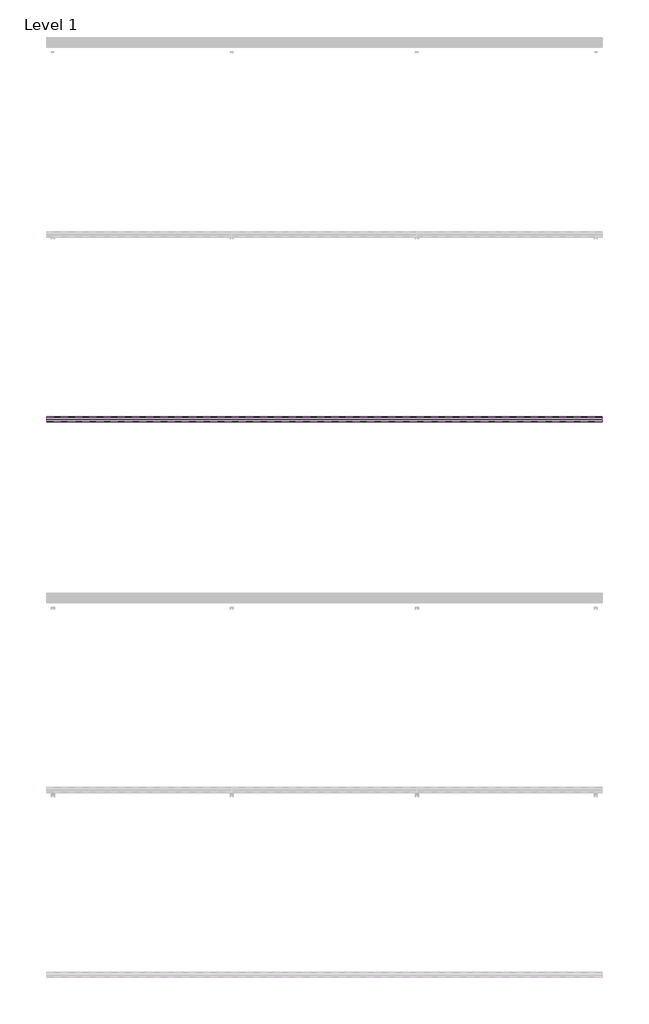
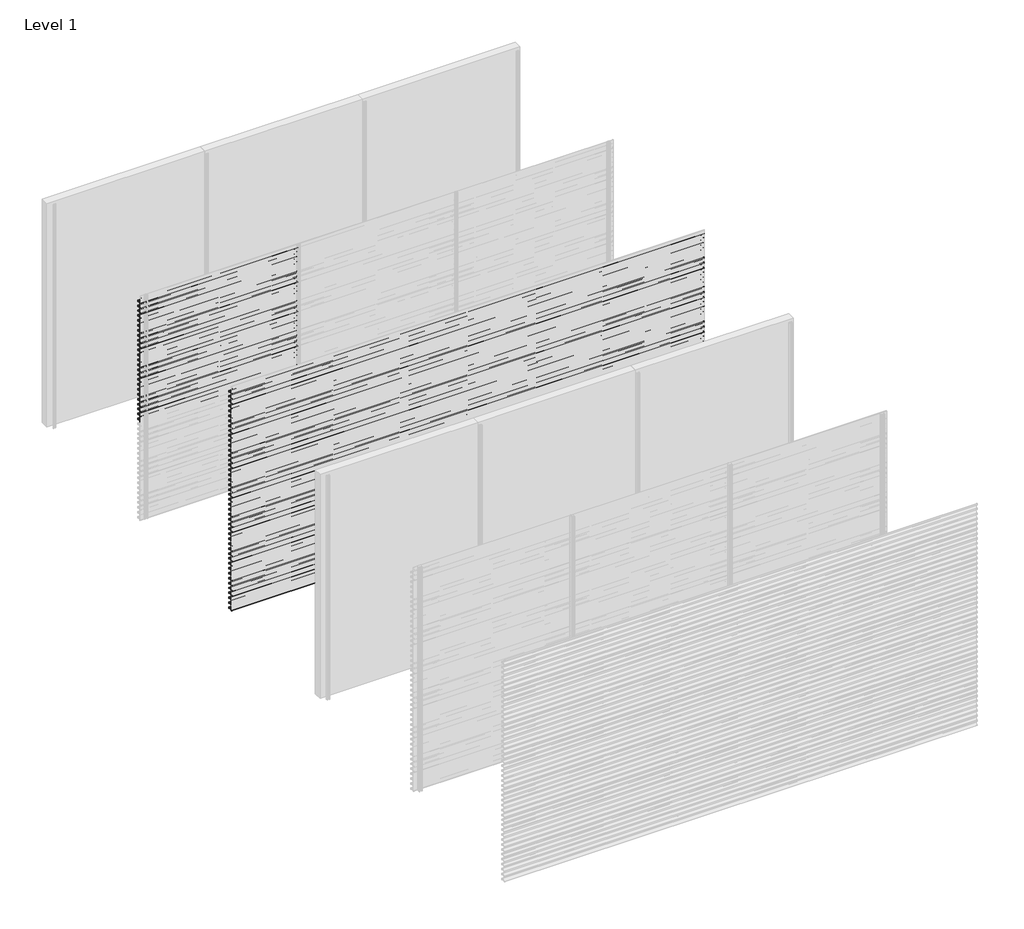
# One storey, part 23 of 27: 71 proxies.
"""IFC4 building model written with IfcOpenShell, lengths in millimetres."""

import ifcopenshell
import ifcopenshell.guid

model = None  # the IFC model being written
_history = None  # IfcOwnerHistory: only IFC2X3 demands one
_inside = {}  # id of a spatial element -> (the spatial element, [elements in it])
_under = {}  # id of a project, library or spatial element -> (it, [spatial elements below it])
_declared = {}  # id of a project -> (the project, [libraries it declares])
_typed = {}  # id of a type object -> (the type object, [elements of that type])
_made_of = {}  # id of a material, layer set ... -> (it, [elements and type objects made of it])


def new_model(schema):
    """Start an empty IFC model of exactly this schema.

    Asked for "IFC4X3", IfcOpenShell would pick the latest addendum, in which some entities
    have other attributes; the version numbers below select the first issue.
    IFC2X3 requires an IfcOwnerHistory on every rooted entity: one is made here for all.
    """
    global model, _history
    if schema == "IFC4X3":
        model = ifcopenshell.file(schema_version=(4, 3, 0, 0))
    else:
        model = ifcopenshell.file(schema=schema)
    _inside.clear()
    _under.clear()
    _declared.clear()
    _typed.clear()
    _made_of.clear()
    _history = None
    if model.schema == "IFC2X3":
        org = make("IfcOrganization", Name="unknown")
        user = make(
            "IfcPersonAndOrganization",
            ThePerson=make("IfcPerson", FamilyName="unknown"),
            TheOrganization=org,
        )
        app = make(
            "IfcApplication",
            ApplicationDeveloper=org,
            Version="unknown",
            ApplicationFullName="unknown",
            ApplicationIdentifier="unknown",
        )
        _history = make(
            "IfcOwnerHistory",
            OwningUser=user,
            OwningApplication=app,
            ChangeAction="ADDED",
            CreationDate=0,
        )
    return model


def make(cls, **values):
    """One entity of the class cls with the attributes given. An attribute that is None is left unset."""
    return model.create_entity(
        cls, **{name: value for name, value in values.items() if value is not None}
    )


def rooted(cls, **values):
    """An entity with a GlobalId (a new one), such as an element, a storey or a relation."""
    return make(cls, GlobalId=ifcopenshell.guid.new(), OwnerHistory=_history, **values)


def si_unit(unit_type, name, prefix=None):
    """IfcSIUnit, for example si_unit("LENGTHUNIT", "METRE", prefix="MILLI")."""
    return make("IfcSIUnit", UnitType=unit_type, Prefix=prefix, Name=name)


def assignment(units):
    """IfcUnitAssignment: the units of a project."""
    return None if units is None else make("IfcUnitAssignment", Units=units)


def point(xyz):
    """IfcCartesianPoint."""
    return None if xyz is None else make("IfcCartesianPoint", Coordinates=xyz)


def direction(xyz):
    """IfcDirection."""
    return None if xyz is None else make("IfcDirection", DirectionRatios=xyz)


def frame(location, z_axis=None, x_axis=None):
    """IfcAxis2Placement3D, a coordinate frame: its origin and axes. An axis left out is left unset."""
    return make(
        "IfcAxis2Placement3D",
        Location=point(location),
        Axis=direction(z_axis),
        RefDirection=direction(x_axis),
    )


def origin():
    """The frame at (0, 0, 0) with its axes left unset."""
    return frame((0.0, 0.0, 0.0))


def place(relative_to, where):
    """IfcLocalPlacement: puts the frame where relative to a parent placement (None: the world)."""
    return make(
        "IfcLocalPlacement", PlacementRelTo=relative_to, RelativePlacement=where
    )


def context(
    kind, dimensions, precision=None, world=None, true_north=None, identifier=None
):
    """IfcGeometricRepresentationContext, for example the 3D "Model" context."""
    return make(
        "IfcGeometricRepresentationContext",
        ContextIdentifier=identifier,
        ContextType=kind,
        CoordinateSpaceDimension=dimensions,
        Precision=precision,
        WorldCoordinateSystem=world,
        TrueNorth=true_north,
    )


def project(units=None, contexts=None):
    """IfcProject with its units and contexts."""
    return rooted(
        "IfcProject",
        Name="project",
        RepresentationContexts=contexts,
        UnitsInContext=assignment(units),
    )


def spatial(cls, under=None, at=None, **own):
    """A site, building, storey or space (cls), placed at a placement, below another one or the project."""
    s = rooted(cls, ObjectPlacement=at, **own)
    if under is not None:
        _under.setdefault(under.id(), (under, []))[1].append(s)
    return s


def polyline(points):
    """IfcPolyline through the points."""
    return make("IfcPolyline", Points=[point(p) for p in points])


def outline(outer, holes=None, kind="AREA"):
    """IfcArbitraryClosedProfileDef: a profile drawn as a closed curve; with holes, ...WithVoids."""
    if holes is None:
        return make("IfcArbitraryClosedProfileDef", ProfileType=kind, OuterCurve=outer)
    return make(
        "IfcArbitraryProfileDefWithVoids",
        ProfileType=kind,
        OuterCurve=outer,
        InnerCurves=holes,
    )


def extrude(swept, where, along, depth):
    """IfcExtrudedAreaSolid: the profile swept, set in the frame where, extruded along a direction by depth."""
    return make(
        "IfcExtrudedAreaSolid",
        SweptArea=swept,
        Position=where,
        ExtrudedDirection=direction(along),
        Depth=depth,
    )


def shape(context_of_items, identifier, shape_type, items):
    """IfcShapeRepresentation: the items that make up one representation, for example the "Body"."""
    return make(
        "IfcShapeRepresentation",
        ContextOfItems=context_of_items,
        RepresentationIdentifier=identifier,
        RepresentationType=shape_type,
        Items=items,
    )


def made_of(thing, what):
    """Note that an element or type object is made of a material, layer set ...; save() writes the relation."""
    if what is not None:
        _made_of.setdefault(what.id(), (what, []))[1].append(thing)
    return thing


def element(
    cls,
    number,
    at=None,
    inside=None,
    cuts=None,
    type_object=None,
    material=None,
    context=None,
    identifier="Body",
    shape_type=None,
    held_by="IfcProductDefinitionShape",
    body=None,
    shapes=None,
    **own,
):
    """One element of the class cls, such as IfcWall. Its Tag is "e" and its number.

    at: its placement. inside: the storey or other place that contains it. cuts: it is an
    opening in that element (IfcRelVoidsElement). A single representation is given by context,
    identifier, shape_type and body (its items); several are given by shapes. held_by: the class
    of the entity that holds the representations. save() writes the other relations.
    """
    e = rooted(cls, Tag="e%d" % number, ObjectPlacement=at, **own)
    if body is not None:
        shapes = [shape(context, identifier, shape_type, body)]
    if shapes is not None:
        e.Representation = make(held_by, Representations=shapes)
    if inside is not None:
        _inside.setdefault(inside.id(), (inside, []))[1].append(e)
    if cuts is not None:
        rooted(
            "IfcRelVoidsElement", RelatingBuildingElement=cuts, RelatedOpeningElement=e
        )
    if type_object is not None:
        _typed.setdefault(type_object.id(), (type_object, []))[1].append(e)
    return made_of(e, material)


def aggregate(whole, parts):
    """IfcRelAggregates: a whole, such as a stair, and the parts it consists of."""
    return rooted("IfcRelAggregates", RelatingObject=whole, RelatedObjects=parts)


def save(model, path):
    """Write the relations noted so far, then the file.

    IfcRelAggregates (storeys below a building ...), IfcRelContainedInSpatialStructure (elements
    in a storey), IfcRelDefinesByType, IfcRelAssociatesMaterial and IfcRelDeclares: one each for
    every whole, place, type object, material and project.
    """
    for whole, parts in _under.values():
        aggregate(whole, parts)
    for where, things in _inside.values():
        rooted(
            "IfcRelContainedInSpatialStructure",
            RelatedElements=things,
            RelatingStructure=where,
        )
    for kind, things in _typed.values():
        rooted("IfcRelDefinesByType", RelatedObjects=things, RelatingType=kind)
    for what, things in _made_of.values():
        rooted("IfcRelAssociatesMaterial", RelatedObjects=things, RelatingMaterial=what)
    for by, libraries in _declared.values():
        rooted("IfcRelDeclares", RelatingContext=by, RelatedDefinitions=libraries)
    model.write(path)


model = new_model("IFC4")

# Units and contexts
model_context = context("Model", 3, world=origin())
ifc_project = project(units=[si_unit("LENGTHUNIT", "METRE", prefix="MILLI")], contexts=[model_context])

# Site, building, storey
site = spatial("IfcSite", under=ifc_project)
building = spatial("IfcBuilding", under=site)
storey = spatial("IfcBuildingStorey", under=building, Name="Level 1", Elevation=0.0)

# Proxies
placement = place(None, origin())
element("IfcBuildingElementProxy", 1, Name="Wall Sweeps", at=placement, inside=storey, context=model_context, shape_type="SweptSolid", body=[
    extrude(outline(polyline([(-5943.0, 2913.2), (-5943.0, 2893.5), (-5944.25, 2894.5866084), (-5944.25, 2912.4872415), (-5963.0322086, 2925.6010889), (-5995.1332975, 2893.5), (-5996.0525363, 2894.4192388), (-5964.1148087, 2926.3569665), (-5998.0, 2950.0158044), (-5998.0, 2970.0), (-5996.75, 2970.0), (-5996.75, 2950.7285629), (-5943.0, 2913.2)])), frame((0.0, 0.0, 0.0), z_axis=(1.0, 0.0, 0.0), x_axis=(0.0, 1.0, 0.0)), (0.0, 0.0, 1.0), 2000.0),
])
element("IfcBuildingElementProxy", 2, Name="Wall Sweeps", at=placement, inside=storey, context=model_context, shape_type="SweptSolid", body=[
    extrude(outline(polyline([(-5943.0, 2847.2), (-5943.0, 2827.5), (-5944.25, 2828.5866084), (-5944.25, 2846.4872415), (-5963.0322086, 2859.6010889), (-5995.1332975, 2827.5), (-5996.0525363, 2828.4192388), (-5964.1148087, 2860.3569665), (-5998.0, 2884.0158044), (-5998.0, 2904.0), (-5996.75, 2904.0), (-5996.75, 2884.7285629), (-5943.0, 2847.2)])), frame((0.0, 0.0, 0.0), z_axis=(1.0, 0.0, 0.0), x_axis=(0.0, 1.0, 0.0)), (0.0, 0.0, 1.0), 2000.0),
])
element("IfcBuildingElementProxy", 3, Name="Wall Sweeps", at=placement, inside=storey, context=model_context, shape_type="SweptSolid", body=[
    extrude(outline(polyline([(-5943.0, 2781.2), (-5943.0, 2761.5), (-5944.25, 2762.5866084), (-5944.25, 2780.4872415), (-5963.0322086, 2793.6010889), (-5995.1332975, 2761.5), (-5996.0525363, 2762.4192388), (-5964.1148087, 2794.3569665), (-5998.0, 2818.0158044), (-5998.0, 2838.0), (-5996.75, 2838.0), (-5996.75, 2818.7285629), (-5943.0, 2781.2)])), frame((0.0, 0.0, 0.0), z_axis=(1.0, 0.0, 0.0), x_axis=(0.0, 1.0, 0.0)), (0.0, 0.0, 1.0), 2000.0),
])
element("IfcBuildingElementProxy", 4, Name="Wall Sweeps", at=placement, inside=storey, context=model_context, shape_type="SweptSolid", body=[
    extrude(outline(polyline([(-5943.0, 2715.2), (-5943.0, 2695.5), (-5944.25, 2696.5866084), (-5944.25, 2714.4872415), (-5963.0322086, 2727.6010889), (-5995.1332975, 2695.5), (-5996.0525363, 2696.4192388), (-5964.1148087, 2728.3569665), (-5998.0, 2752.0158044), (-5998.0, 2772.0), (-5996.75, 2772.0), (-5996.75, 2752.7285629), (-5943.0, 2715.2)])), frame((0.0, 0.0, 0.0), z_axis=(1.0, 0.0, 0.0), x_axis=(0.0, 1.0, 0.0)), (0.0, 0.0, 1.0), 2000.0),
])
element("IfcBuildingElementProxy", 5, Name="Wall Sweeps", at=placement, inside=storey, context=model_context, shape_type="SweptSolid", body=[
    extrude(outline(polyline([(-5943.0, 2649.2), (-5943.0, 2629.5), (-5944.25, 2630.5866084), (-5944.25, 2648.4872415), (-5963.0322086, 2661.6010889), (-5995.1332975, 2629.5), (-5996.0525363, 2630.4192388), (-5964.1148087, 2662.3569665), (-5998.0, 2686.0158044), (-5998.0, 2706.0), (-5996.75, 2706.0), (-5996.75, 2686.7285629), (-5943.0, 2649.2)])), frame((0.0, 0.0, 0.0), z_axis=(1.0, 0.0, 0.0), x_axis=(0.0, 1.0, 0.0)), (0.0, 0.0, 1.0), 2000.0),
])
element("IfcBuildingElementProxy", 6, Name="Wall Sweeps", at=placement, inside=storey, context=model_context, shape_type="SweptSolid", body=[
    extrude(outline(polyline([(-5943.0, 2583.2), (-5943.0, 2563.5), (-5944.25, 2564.5866084), (-5944.25, 2582.4872415), (-5963.0322086, 2595.6010889), (-5995.1332975, 2563.5), (-5996.0525363, 2564.4192388), (-5964.1148087, 2596.3569665), (-5998.0, 2620.0158044), (-5998.0, 2640.0), (-5996.75, 2640.0), (-5996.75, 2620.7285629), (-5943.0, 2583.2)])), frame((0.0, 0.0, 0.0), z_axis=(1.0, 0.0, 0.0), x_axis=(0.0, 1.0, 0.0)), (0.0, 0.0, 1.0), 2000.0),
])
element("IfcBuildingElementProxy", 7, Name="Wall Sweeps", at=placement, inside=storey, context=model_context, shape_type="SweptSolid", body=[
    extrude(outline(polyline([(-5943.0, 2517.2), (-5943.0, 2497.5), (-5944.25, 2498.5866084), (-5944.25, 2516.4872415), (-5963.0322086, 2529.6010889), (-5995.1332975, 2497.5), (-5996.0525363, 2498.4192388), (-5964.1148087, 2530.3569665), (-5998.0, 2554.0158044), (-5998.0, 2574.0), (-5996.75, 2574.0), (-5996.75, 2554.7285629), (-5943.0, 2517.2)])), frame((0.0, 0.0, 0.0), z_axis=(1.0, 0.0, 0.0), x_axis=(0.0, 1.0, 0.0)), (0.0, 0.0, 1.0), 2000.0),
])
element("IfcBuildingElementProxy", 8, Name="Wall Sweeps", at=placement, inside=storey, context=model_context, shape_type="SweptSolid", body=[
    extrude(outline(polyline([(-5943.0, 2451.2), (-5943.0, 2431.5), (-5944.25, 2432.5866084), (-5944.25, 2450.4872415), (-5963.0322086, 2463.6010889), (-5995.1332975, 2431.5), (-5996.0525363, 2432.4192388), (-5964.1148087, 2464.3569665), (-5998.0, 2488.0158044), (-5998.0, 2508.0), (-5996.75, 2508.0), (-5996.75, 2488.7285629), (-5943.0, 2451.2)])), frame((0.0, 0.0, 0.0), z_axis=(1.0, 0.0, 0.0), x_axis=(0.0, 1.0, 0.0)), (0.0, 0.0, 1.0), 2000.0),
])
element("IfcBuildingElementProxy", 9, Name="Wall Sweeps", at=placement, inside=storey, context=model_context, shape_type="SweptSolid", body=[
    extrude(outline(polyline([(-5943.0, 2385.2), (-5943.0, 2365.5), (-5944.25, 2366.5866084), (-5944.25, 2384.4872415), (-5963.0322086, 2397.6010889), (-5995.1332975, 2365.5), (-5996.0525363, 2366.4192388), (-5964.1148087, 2398.3569665), (-5998.0, 2422.0158044), (-5998.0, 2442.0), (-5996.75, 2442.0), (-5996.75, 2422.7285629), (-5943.0, 2385.2)])), frame((0.0, 0.0, 0.0), z_axis=(1.0, 0.0, 0.0), x_axis=(0.0, 1.0, 0.0)), (0.0, 0.0, 1.0), 2000.0),
])
element("IfcBuildingElementProxy", 10, Name="Wall Sweeps", at=placement, inside=storey, context=model_context, shape_type="SweptSolid", body=[
    extrude(outline(polyline([(-5943.0, 2319.2), (-5943.0, 2299.5), (-5944.25, 2300.5866084), (-5944.25, 2318.4872415), (-5963.0322086, 2331.6010889), (-5995.1332975, 2299.5), (-5996.0525363, 2300.4192388), (-5964.1148087, 2332.3569665), (-5998.0, 2356.0158044), (-5998.0, 2376.0), (-5996.75, 2376.0), (-5996.75, 2356.7285629), (-5943.0, 2319.2)])), frame((0.0, 0.0, 0.0), z_axis=(1.0, 0.0, 0.0), x_axis=(0.0, 1.0, 0.0)), (0.0, 0.0, 1.0), 2000.0),
])
element("IfcBuildingElementProxy", 11, Name="Wall Sweeps", at=placement, inside=storey, context=model_context, shape_type="SweptSolid", body=[
    extrude(outline(polyline([(-5943.0, 2253.2), (-5943.0, 2233.5), (-5944.25, 2234.5866084), (-5944.25, 2252.4872415), (-5963.0322086, 2265.6010889), (-5995.1332975, 2233.5), (-5996.0525363, 2234.4192388), (-5964.1148087, 2266.3569665), (-5998.0, 2290.0158044), (-5998.0, 2310.0), (-5996.75, 2310.0), (-5996.75, 2290.7285629), (-5943.0, 2253.2)])), frame((0.0, 0.0, 0.0), z_axis=(1.0, 0.0, 0.0), x_axis=(0.0, 1.0, 0.0)), (0.0, 0.0, 1.0), 2000.0),
])
element("IfcBuildingElementProxy", 12, Name="Wall Sweeps", at=placement, inside=storey, context=model_context, shape_type="SweptSolid", body=[
    extrude(outline(polyline([(-5943.0, 2187.2), (-5943.0, 2167.5), (-5944.25, 2168.5866084), (-5944.25, 2186.4872415), (-5963.0322086, 2199.6010889), (-5995.1332975, 2167.5), (-5996.0525363, 2168.4192388), (-5964.1148087, 2200.3569665), (-5998.0, 2224.0158044), (-5998.0, 2244.0), (-5996.75, 2244.0), (-5996.75, 2224.7285629), (-5943.0, 2187.2)])), frame((0.0, 0.0, 0.0), z_axis=(1.0, 0.0, 0.0), x_axis=(0.0, 1.0, 0.0)), (0.0, 0.0, 1.0), 2000.0),
])
element("IfcBuildingElementProxy", 13, Name="Wall Sweeps", at=placement, inside=storey, context=model_context, shape_type="SweptSolid", body=[
    extrude(outline(polyline([(-5943.0, 2121.2), (-5943.0, 2101.5), (-5944.25, 2102.5866084), (-5944.25, 2120.4872415), (-5963.0322086, 2133.6010889), (-5995.1332975, 2101.5), (-5996.0525363, 2102.4192388), (-5964.1148087, 2134.3569665), (-5998.0, 2158.0158044), (-5998.0, 2178.0), (-5996.75, 2178.0), (-5996.75, 2158.7285629), (-5943.0, 2121.2)])), frame((0.0, 0.0, 0.0), z_axis=(1.0, 0.0, 0.0), x_axis=(0.0, 1.0, 0.0)), (0.0, 0.0, 1.0), 2000.0),
])
element("IfcBuildingElementProxy", 14, Name="Wall Sweeps", at=placement, inside=storey, context=model_context, shape_type="SweptSolid", body=[
    extrude(outline(polyline([(-5943.0, 2055.2), (-5943.0, 2035.5), (-5944.25, 2036.5866084), (-5944.25, 2054.4872415), (-5963.0322086, 2067.6010889), (-5995.1332975, 2035.5), (-5996.0525363, 2036.4192388), (-5964.1148087, 2068.3569665), (-5998.0, 2092.0158044), (-5998.0, 2112.0), (-5996.75, 2112.0), (-5996.75, 2092.7285629), (-5943.0, 2055.2)])), frame((0.0, 0.0, 0.0), z_axis=(1.0, 0.0, 0.0), x_axis=(0.0, 1.0, 0.0)), (0.0, 0.0, 1.0), 2000.0),
])
element("IfcBuildingElementProxy", 15, Name="Wall Sweeps", at=placement, inside=storey, context=model_context, shape_type="SweptSolid", body=[
    extrude(outline(polyline([(-5943.0, 1989.2), (-5943.0, 1969.5), (-5944.25, 1970.5866084), (-5944.25, 1988.4872415), (-5963.0322086, 2001.6010889), (-5995.1332975, 1969.5), (-5996.0525363, 1970.4192388), (-5964.1148087, 2002.3569665), (-5998.0, 2026.0158044), (-5998.0, 2046.0), (-5996.75, 2046.0), (-5996.75, 2026.7285629), (-5943.0, 1989.2)])), frame((0.0, 0.0, 0.0), z_axis=(1.0, 0.0, 0.0), x_axis=(0.0, 1.0, 0.0)), (0.0, 0.0, 1.0), 2000.0),
])
element("IfcBuildingElementProxy", 16, Name="Wall Sweeps", at=placement, inside=storey, context=model_context, shape_type="SweptSolid", body=[
    extrude(outline(polyline([(-5943.0, 1923.2), (-5943.0, 1903.5), (-5944.25, 1904.5866084), (-5944.25, 1922.4872415), (-5963.0322086, 1935.6010889), (-5995.1332975, 1903.5), (-5996.0525363, 1904.4192388), (-5964.1148087, 1936.3569665), (-5998.0, 1960.0158044), (-5998.0, 1980.0), (-5996.75, 1980.0), (-5996.75, 1960.7285629), (-5943.0, 1923.2)])), frame((0.0, 0.0, 0.0), z_axis=(1.0, 0.0, 0.0), x_axis=(0.0, 1.0, 0.0)), (0.0, 0.0, 1.0), 2000.0),
])
element("IfcBuildingElementProxy", 17, Name="Wall Sweeps", at=placement, inside=storey, context=model_context, shape_type="SweptSolid", body=[
    extrude(outline(polyline([(-5943.0, 1857.2), (-5943.0, 1837.5), (-5944.25, 1838.5866084), (-5944.25, 1856.4872415), (-5963.0322086, 1869.6010889), (-5995.1332975, 1837.5), (-5996.0525363, 1838.4192388), (-5964.1148087, 1870.3569665), (-5998.0, 1894.0158044), (-5998.0, 1914.0), (-5996.75, 1914.0), (-5996.75, 1894.7285629), (-5943.0, 1857.2)])), frame((0.0, 0.0, 0.0), z_axis=(1.0, 0.0, 0.0), x_axis=(0.0, 1.0, 0.0)), (0.0, 0.0, 1.0), 2000.0),
])
element("IfcBuildingElementProxy", 18, Name="Wall Sweeps", at=placement, inside=storey, context=model_context, shape_type="SweptSolid", body=[
    extrude(outline(polyline([(-5943.0, 1791.2), (-5943.0, 1771.5), (-5944.25, 1772.5866084), (-5944.25, 1790.4872415), (-5963.0322086, 1803.6010889), (-5995.1332975, 1771.5), (-5996.0525363, 1772.4192388), (-5964.1148087, 1804.3569665), (-5998.0, 1828.0158044), (-5998.0, 1848.0), (-5996.75, 1848.0), (-5996.75, 1828.7285629), (-5943.0, 1791.2)])), frame((0.0, 0.0, 0.0), z_axis=(1.0, 0.0, 0.0), x_axis=(0.0, 1.0, 0.0)), (0.0, 0.0, 1.0), 2000.0),
])
element("IfcBuildingElementProxy", 19, Name="Wall Sweeps", at=placement, inside=storey, context=model_context, shape_type="SweptSolid", body=[
    extrude(outline(polyline([(-5943.0, 1725.2), (-5943.0, 1705.5), (-5944.25, 1706.5866084), (-5944.25, 1724.4872415), (-5963.0322086, 1737.6010889), (-5995.1332975, 1705.5), (-5996.0525363, 1706.4192388), (-5964.1148087, 1738.3569665), (-5998.0, 1762.0158044), (-5998.0, 1782.0), (-5996.75, 1782.0), (-5996.75, 1762.7285629), (-5943.0, 1725.2)])), frame((0.0, 0.0, 0.0), z_axis=(1.0, 0.0, 0.0), x_axis=(0.0, 1.0, 0.0)), (0.0, 0.0, 1.0), 2000.0),
])
element("IfcBuildingElementProxy", 20, Name="Wall Sweeps", at=placement, inside=storey, context=model_context, shape_type="SweptSolid", body=[
    extrude(outline(polyline([(-5943.0, 1659.2), (-5943.0, 1639.5), (-5944.25, 1640.5866084), (-5944.25, 1658.4872415), (-5963.0322086, 1671.6010889), (-5995.1332975, 1639.5), (-5996.0525363, 1640.4192388), (-5964.1148087, 1672.3569665), (-5998.0, 1696.0158044), (-5998.0, 1716.0), (-5996.75, 1716.0), (-5996.75, 1696.7285629), (-5943.0, 1659.2)])), frame((0.0, 0.0, 0.0), z_axis=(1.0, 0.0, 0.0), x_axis=(0.0, 1.0, 0.0)), (0.0, 0.0, 1.0), 2000.0),
])
element("IfcBuildingElementProxy", 21, Name="Wall Sweeps", at=placement, inside=storey, context=model_context, shape_type="SweptSolid", body=[
    extrude(outline(polyline([(-5943.0, 1593.2), (-5943.0, 1573.5), (-5944.25, 1574.5866084), (-5944.25, 1592.4872415), (-5963.0322086, 1605.6010889), (-5995.1332975, 1573.5), (-5996.0525363, 1574.4192388), (-5964.1148087, 1606.3569665), (-5998.0, 1630.0158044), (-5998.0, 1650.0), (-5996.75, 1650.0), (-5996.75, 1630.7285629), (-5943.0, 1593.2)])), frame((0.0, 0.0, 0.0), z_axis=(1.0, 0.0, 0.0), x_axis=(0.0, 1.0, 0.0)), (0.0, 0.0, 1.0), 2000.0),
])
element("IfcBuildingElementProxy", 22, Name="Wall Sweeps", at=placement, inside=storey, context=model_context, shape_type="SweptSolid", body=[
    extrude(outline(polyline([(-5943.0, 1527.2), (-5943.0, 1507.5), (-5944.25, 1508.5866084), (-5944.25, 1526.4872415), (-5963.0322086, 1539.6010889), (-5995.1332975, 1507.5), (-5996.0525363, 1508.4192388), (-5964.1148087, 1540.3569665), (-5998.0, 1564.0158044), (-5998.0, 1584.0), (-5996.75, 1584.0), (-5996.75, 1564.7285629), (-5943.0, 1527.2)])), frame((0.0, 0.0, 0.0), z_axis=(1.0, 0.0, 0.0), x_axis=(0.0, 1.0, 0.0)), (0.0, 0.0, 1.0), 2000.0),
])
element("IfcBuildingElementProxy", 23, Name="Wall Sweeps", at=placement, inside=storey, context=model_context, shape_type="SweptSolid", body=[
    extrude(outline(polyline([(-5943.0, 1461.2), (-5943.0, 1441.5), (-5944.25, 1442.5866084), (-5944.25, 1460.4872415), (-5963.0322086, 1473.6010889), (-5995.1332975, 1441.5), (-5996.0525363, 1442.4192388), (-5964.1148087, 1474.3569665), (-5998.0, 1498.0158044), (-5998.0, 1518.0), (-5996.75, 1518.0), (-5996.75, 1498.7285629), (-5943.0, 1461.2)])), frame((0.0, 0.0, 0.0), z_axis=(1.0, 0.0, 0.0), x_axis=(0.0, 1.0, 0.0)), (0.0, 0.0, 1.0), 2000.0),
])
element("IfcBuildingElementProxy", 24, Name="Wall Sweeps", at=placement, inside=storey, context=model_context, shape_type="SweptSolid", body=[
    extrude(outline(polyline([(-5943.0, 1395.2), (-5943.0, 1375.5), (-5944.25, 1376.5866084), (-5944.25, 1394.4872415), (-5963.0322086, 1407.6010889), (-5995.1332975, 1375.5), (-5996.0525363, 1376.4192388), (-5964.1148087, 1408.3569665), (-5998.0, 1432.0158044), (-5998.0, 1452.0), (-5996.75, 1452.0), (-5996.75, 1432.7285629), (-5943.0, 1395.2)])), frame((0.0, 0.0, 0.0), z_axis=(1.0, 0.0, 0.0), x_axis=(0.0, 1.0, 0.0)), (0.0, 0.0, 1.0), 2000.0),
])
element("IfcBuildingElementProxy", 25, Name="Wall Sweeps", at=placement, inside=storey, context=model_context, shape_type="SweptSolid", body=[
    extrude(outline(polyline([(-5943.0, 1329.2), (-5943.0, 1309.5), (-5944.25, 1310.5866084), (-5944.25, 1328.4872415), (-5963.0322086, 1341.6010889), (-5995.1332975, 1309.5), (-5996.0525363, 1310.4192388), (-5964.1148087, 1342.3569665), (-5998.0, 1366.0158044), (-5998.0, 1386.0), (-5996.75, 1386.0), (-5996.75, 1366.7285629), (-5943.0, 1329.2)])), frame((0.0, 0.0, 0.0), z_axis=(1.0, 0.0, 0.0), x_axis=(0.0, 1.0, 0.0)), (0.0, 0.0, 1.0), 2000.0),
])
element("IfcBuildingElementProxy", 26, Name="Wall Sweeps", at=placement, inside=storey, context=model_context, shape_type="SweptSolid", body=[
    extrude(outline(polyline([(-7943.0, 2913.2), (-7943.0, 2893.5), (-7944.25, 2894.5866084), (-7944.25, 2912.4872415), (-7963.0322086, 2925.6010889), (-7995.1332975, 2893.5), (-7996.0525363, 2894.4192388), (-7964.1148087, 2926.3569665), (-7998.0, 2950.0158044), (-7998.0, 2970.0), (-7996.75, 2970.0), (-7996.75, 2950.7285629), (-7943.0, 2913.2)])), frame((0.0, 0.0, 0.0), z_axis=(1.0, 0.0, 0.0), x_axis=(0.0, 1.0, 0.0)), (0.0, 0.0, 1.0), 6000.0),
])
element("IfcBuildingElementProxy", 27, Name="Wall Sweeps", at=placement, inside=storey, context=model_context, shape_type="SweptSolid", body=[
    extrude(outline(polyline([(-7943.0, 2847.2), (-7943.0, 2827.5), (-7944.25, 2828.5866084), (-7944.25, 2846.4872415), (-7963.0322086, 2859.6010889), (-7995.1332975, 2827.5), (-7996.0525363, 2828.4192388), (-7964.1148087, 2860.3569665), (-7998.0, 2884.0158044), (-7998.0, 2904.0), (-7996.75, 2904.0), (-7996.75, 2884.7285629), (-7943.0, 2847.2)])), frame((0.0, 0.0, 0.0), z_axis=(1.0, 0.0, 0.0), x_axis=(0.0, 1.0, 0.0)), (0.0, 0.0, 1.0), 6000.0),
])
element("IfcBuildingElementProxy", 28, Name="Wall Sweeps", at=placement, inside=storey, context=model_context, shape_type="SweptSolid", body=[
    extrude(outline(polyline([(-7943.0, 2781.2), (-7943.0, 2761.5), (-7944.25, 2762.5866084), (-7944.25, 2780.4872415), (-7963.0322086, 2793.6010889), (-7995.1332975, 2761.5), (-7996.0525363, 2762.4192388), (-7964.1148087, 2794.3569665), (-7998.0, 2818.0158044), (-7998.0, 2838.0), (-7996.75, 2838.0), (-7996.75, 2818.7285629), (-7943.0, 2781.2)])), frame((0.0, 0.0, 0.0), z_axis=(1.0, 0.0, 0.0), x_axis=(0.0, 1.0, 0.0)), (0.0, 0.0, 1.0), 6000.0),
])
element("IfcBuildingElementProxy", 29, Name="Wall Sweeps", at=placement, inside=storey, context=model_context, shape_type="SweptSolid", body=[
    extrude(outline(polyline([(-7943.0, 2715.2), (-7943.0, 2695.5), (-7944.25, 2696.5866084), (-7944.25, 2714.4872415), (-7963.0322086, 2727.6010889), (-7995.1332975, 2695.5), (-7996.0525363, 2696.4192388), (-7964.1148087, 2728.3569665), (-7998.0, 2752.0158044), (-7998.0, 2772.0), (-7996.75, 2772.0), (-7996.75, 2752.7285629), (-7943.0, 2715.2)])), frame((0.0, 0.0, 0.0), z_axis=(1.0, 0.0, 0.0), x_axis=(0.0, 1.0, 0.0)), (0.0, 0.0, 1.0), 6000.0),
])
element("IfcBuildingElementProxy", 30, Name="Wall Sweeps", at=placement, inside=storey, context=model_context, shape_type="SweptSolid", body=[
    extrude(outline(polyline([(-7943.0, 2649.2), (-7943.0, 2629.5), (-7944.25, 2630.5866084), (-7944.25, 2648.4872415), (-7963.0322086, 2661.6010889), (-7995.1332975, 2629.5), (-7996.0525363, 2630.4192388), (-7964.1148087, 2662.3569665), (-7998.0, 2686.0158044), (-7998.0, 2706.0), (-7996.75, 2706.0), (-7996.75, 2686.7285629), (-7943.0, 2649.2)])), frame((0.0, 0.0, 0.0), z_axis=(1.0, 0.0, 0.0), x_axis=(0.0, 1.0, 0.0)), (0.0, 0.0, 1.0), 6000.0),
])
element("IfcBuildingElementProxy", 31, Name="Wall Sweeps", at=placement, inside=storey, context=model_context, shape_type="SweptSolid", body=[
    extrude(outline(polyline([(-7943.0, 2583.2), (-7943.0, 2563.5), (-7944.25, 2564.5866084), (-7944.25, 2582.4872415), (-7963.0322086, 2595.6010889), (-7995.1332975, 2563.5), (-7996.0525363, 2564.4192388), (-7964.1148087, 2596.3569665), (-7998.0, 2620.0158044), (-7998.0, 2640.0), (-7996.75, 2640.0), (-7996.75, 2620.7285629), (-7943.0, 2583.2)])), frame((0.0, 0.0, 0.0), z_axis=(1.0, 0.0, 0.0), x_axis=(0.0, 1.0, 0.0)), (0.0, 0.0, 1.0), 6000.0),
])
element("IfcBuildingElementProxy", 32, Name="Wall Sweeps", at=placement, inside=storey, context=model_context, shape_type="SweptSolid", body=[
    extrude(outline(polyline([(-7943.0, 2517.2), (-7943.0, 2497.5), (-7944.25, 2498.5866084), (-7944.25, 2516.4872415), (-7963.0322086, 2529.6010889), (-7995.1332975, 2497.5), (-7996.0525363, 2498.4192388), (-7964.1148087, 2530.3569665), (-7998.0, 2554.0158044), (-7998.0, 2574.0), (-7996.75, 2574.0), (-7996.75, 2554.7285629), (-7943.0, 2517.2)])), frame((0.0, 0.0, 0.0), z_axis=(1.0, 0.0, 0.0), x_axis=(0.0, 1.0, 0.0)), (0.0, 0.0, 1.0), 6000.0),
])
element("IfcBuildingElementProxy", 33, Name="Wall Sweeps", at=placement, inside=storey, context=model_context, shape_type="SweptSolid", body=[
    extrude(outline(polyline([(-7943.0, 2451.2), (-7943.0, 2431.5), (-7944.25, 2432.5866084), (-7944.25, 2450.4872415), (-7963.0322086, 2463.6010889), (-7995.1332975, 2431.5), (-7996.0525363, 2432.4192388), (-7964.1148087, 2464.3569665), (-7998.0, 2488.0158044), (-7998.0, 2508.0), (-7996.75, 2508.0), (-7996.75, 2488.7285629), (-7943.0, 2451.2)])), frame((0.0, 0.0, 0.0), z_axis=(1.0, 0.0, 0.0), x_axis=(0.0, 1.0, 0.0)), (0.0, 0.0, 1.0), 6000.0),
])
element("IfcBuildingElementProxy", 34, Name="Wall Sweeps", at=placement, inside=storey, context=model_context, shape_type="SweptSolid", body=[
    extrude(outline(polyline([(-7943.0, 2385.2), (-7943.0, 2365.5), (-7944.25, 2366.5866084), (-7944.25, 2384.4872415), (-7963.0322086, 2397.6010889), (-7995.1332975, 2365.5), (-7996.0525363, 2366.4192388), (-7964.1148087, 2398.3569665), (-7998.0, 2422.0158044), (-7998.0, 2442.0), (-7996.75, 2442.0), (-7996.75, 2422.7285629), (-7943.0, 2385.2)])), frame((0.0, 0.0, 0.0), z_axis=(1.0, 0.0, 0.0), x_axis=(0.0, 1.0, 0.0)), (0.0, 0.0, 1.0), 6000.0),
])
element("IfcBuildingElementProxy", 35, Name="Wall Sweeps", at=placement, inside=storey, context=model_context, shape_type="SweptSolid", body=[
    extrude(outline(polyline([(-7943.0, 2319.2), (-7943.0, 2299.5), (-7944.25, 2300.5866084), (-7944.25, 2318.4872415), (-7963.0322086, 2331.6010889), (-7995.1332975, 2299.5), (-7996.0525363, 2300.4192388), (-7964.1148087, 2332.3569665), (-7998.0, 2356.0158044), (-7998.0, 2376.0), (-7996.75, 2376.0), (-7996.75, 2356.7285629), (-7943.0, 2319.2)])), frame((0.0, 0.0, 0.0), z_axis=(1.0, 0.0, 0.0), x_axis=(0.0, 1.0, 0.0)), (0.0, 0.0, 1.0), 6000.0),
])
element("IfcBuildingElementProxy", 36, Name="Wall Sweeps", at=placement, inside=storey, context=model_context, shape_type="SweptSolid", body=[
    extrude(outline(polyline([(-7943.0, 2253.2), (-7943.0, 2233.5), (-7944.25, 2234.5866084), (-7944.25, 2252.4872415), (-7963.0322086, 2265.6010889), (-7995.1332975, 2233.5), (-7996.0525363, 2234.4192388), (-7964.1148087, 2266.3569665), (-7998.0, 2290.0158044), (-7998.0, 2310.0), (-7996.75, 2310.0), (-7996.75, 2290.7285629), (-7943.0, 2253.2)])), frame((0.0, 0.0, 0.0), z_axis=(1.0, 0.0, 0.0), x_axis=(0.0, 1.0, 0.0)), (0.0, 0.0, 1.0), 6000.0),
])
element("IfcBuildingElementProxy", 37, Name="Wall Sweeps", at=placement, inside=storey, context=model_context, shape_type="SweptSolid", body=[
    extrude(outline(polyline([(-7943.0, 2187.2), (-7943.0, 2167.5), (-7944.25, 2168.5866084), (-7944.25, 2186.4872415), (-7963.0322086, 2199.6010889), (-7995.1332975, 2167.5), (-7996.0525363, 2168.4192388), (-7964.1148087, 2200.3569665), (-7998.0, 2224.0158044), (-7998.0, 2244.0), (-7996.75, 2244.0), (-7996.75, 2224.7285629), (-7943.0, 2187.2)])), frame((0.0, 0.0, 0.0), z_axis=(1.0, 0.0, 0.0), x_axis=(0.0, 1.0, 0.0)), (0.0, 0.0, 1.0), 6000.0),
])
element("IfcBuildingElementProxy", 38, Name="Wall Sweeps", at=placement, inside=storey, context=model_context, shape_type="SweptSolid", body=[
    extrude(outline(polyline([(-7943.0, 2121.2), (-7943.0, 2101.5), (-7944.25, 2102.5866084), (-7944.25, 2120.4872415), (-7963.0322086, 2133.6010889), (-7995.1332975, 2101.5), (-7996.0525363, 2102.4192388), (-7964.1148087, 2134.3569665), (-7998.0, 2158.0158044), (-7998.0, 2178.0), (-7996.75, 2178.0), (-7996.75, 2158.7285629), (-7943.0, 2121.2)])), frame((0.0, 0.0, 0.0), z_axis=(1.0, 0.0, 0.0), x_axis=(0.0, 1.0, 0.0)), (0.0, 0.0, 1.0), 6000.0),
])
element("IfcBuildingElementProxy", 39, Name="Wall Sweeps", at=placement, inside=storey, context=model_context, shape_type="SweptSolid", body=[
    extrude(outline(polyline([(-7943.0, 2055.2), (-7943.0, 2035.5), (-7944.25, 2036.5866084), (-7944.25, 2054.4872415), (-7963.0322086, 2067.6010889), (-7995.1332975, 2035.5), (-7996.0525363, 2036.4192388), (-7964.1148087, 2068.3569665), (-7998.0, 2092.0158044), (-7998.0, 2112.0), (-7996.75, 2112.0), (-7996.75, 2092.7285629), (-7943.0, 2055.2)])), frame((0.0, 0.0, 0.0), z_axis=(1.0, 0.0, 0.0), x_axis=(0.0, 1.0, 0.0)), (0.0, 0.0, 1.0), 6000.0),
])
element("IfcBuildingElementProxy", 40, Name="Wall Sweeps", at=placement, inside=storey, context=model_context, shape_type="SweptSolid", body=[
    extrude(outline(polyline([(-7943.0, 1989.2), (-7943.0, 1969.5), (-7944.25, 1970.5866084), (-7944.25, 1988.4872415), (-7963.0322086, 2001.6010889), (-7995.1332975, 1969.5), (-7996.0525363, 1970.4192388), (-7964.1148087, 2002.3569665), (-7998.0, 2026.0158044), (-7998.0, 2046.0), (-7996.75, 2046.0), (-7996.75, 2026.7285629), (-7943.0, 1989.2)])), frame((0.0, 0.0, 0.0), z_axis=(1.0, 0.0, 0.0), x_axis=(0.0, 1.0, 0.0)), (0.0, 0.0, 1.0), 6000.0),
])
element("IfcBuildingElementProxy", 41, Name="Wall Sweeps", at=placement, inside=storey, context=model_context, shape_type="SweptSolid", body=[
    extrude(outline(polyline([(-7943.0, 1923.2), (-7943.0, 1903.5), (-7944.25, 1904.5866084), (-7944.25, 1922.4872415), (-7963.0322086, 1935.6010889), (-7995.1332975, 1903.5), (-7996.0525363, 1904.4192388), (-7964.1148087, 1936.3569665), (-7998.0, 1960.0158044), (-7998.0, 1980.0), (-7996.75, 1980.0), (-7996.75, 1960.7285629), (-7943.0, 1923.2)])), frame((0.0, 0.0, 0.0), z_axis=(1.0, 0.0, 0.0), x_axis=(0.0, 1.0, 0.0)), (0.0, 0.0, 1.0), 6000.0),
])
element("IfcBuildingElementProxy", 42, Name="Wall Sweeps", at=placement, inside=storey, context=model_context, shape_type="SweptSolid", body=[
    extrude(outline(polyline([(-7943.0, 1857.2), (-7943.0, 1837.5), (-7944.25, 1838.5866084), (-7944.25, 1856.4872415), (-7963.0322086, 1869.6010889), (-7995.1332975, 1837.5), (-7996.0525363, 1838.4192388), (-7964.1148087, 1870.3569665), (-7998.0, 1894.0158044), (-7998.0, 1914.0), (-7996.75, 1914.0), (-7996.75, 1894.7285629), (-7943.0, 1857.2)])), frame((0.0, 0.0, 0.0), z_axis=(1.0, 0.0, 0.0), x_axis=(0.0, 1.0, 0.0)), (0.0, 0.0, 1.0), 6000.0),
])
element("IfcBuildingElementProxy", 43, Name="Wall Sweeps", at=placement, inside=storey, context=model_context, shape_type="SweptSolid", body=[
    extrude(outline(polyline([(-7943.0, 1791.2), (-7943.0, 1771.5), (-7944.25, 1772.5866084), (-7944.25, 1790.4872415), (-7963.0322086, 1803.6010889), (-7995.1332975, 1771.5), (-7996.0525363, 1772.4192388), (-7964.1148087, 1804.3569665), (-7998.0, 1828.0158044), (-7998.0, 1848.0), (-7996.75, 1848.0), (-7996.75, 1828.7285629), (-7943.0, 1791.2)])), frame((0.0, 0.0, 0.0), z_axis=(1.0, 0.0, 0.0), x_axis=(0.0, 1.0, 0.0)), (0.0, 0.0, 1.0), 6000.0),
])
element("IfcBuildingElementProxy", 44, Name="Wall Sweeps", at=placement, inside=storey, context=model_context, shape_type="SweptSolid", body=[
    extrude(outline(polyline([(-7943.0, 1725.2), (-7943.0, 1705.5), (-7944.25, 1706.5866084), (-7944.25, 1724.4872415), (-7963.0322086, 1737.6010889), (-7995.1332975, 1705.5), (-7996.0525363, 1706.4192388), (-7964.1148087, 1738.3569665), (-7998.0, 1762.0158044), (-7998.0, 1782.0), (-7996.75, 1782.0), (-7996.75, 1762.7285629), (-7943.0, 1725.2)])), frame((0.0, 0.0, 0.0), z_axis=(1.0, 0.0, 0.0), x_axis=(0.0, 1.0, 0.0)), (0.0, 0.0, 1.0), 6000.0),
])
element("IfcBuildingElementProxy", 45, Name="Wall Sweeps", at=placement, inside=storey, context=model_context, shape_type="SweptSolid", body=[
    extrude(outline(polyline([(-7943.0, 1659.2), (-7943.0, 1639.5), (-7944.25, 1640.5866084), (-7944.25, 1658.4872415), (-7963.0322086, 1671.6010889), (-7995.1332975, 1639.5), (-7996.0525363, 1640.4192388), (-7964.1148087, 1672.3569665), (-7998.0, 1696.0158044), (-7998.0, 1716.0), (-7996.75, 1716.0), (-7996.75, 1696.7285629), (-7943.0, 1659.2)])), frame((0.0, 0.0, 0.0), z_axis=(1.0, 0.0, 0.0), x_axis=(0.0, 1.0, 0.0)), (0.0, 0.0, 1.0), 6000.0),
])
element("IfcBuildingElementProxy", 46, Name="Wall Sweeps", at=placement, inside=storey, context=model_context, shape_type="SweptSolid", body=[
    extrude(outline(polyline([(-7943.0, 1593.2), (-7943.0, 1573.5), (-7944.25, 1574.5866084), (-7944.25, 1592.4872415), (-7963.0322086, 1605.6010889), (-7995.1332975, 1573.5), (-7996.0525363, 1574.4192388), (-7964.1148087, 1606.3569665), (-7998.0, 1630.0158044), (-7998.0, 1650.0), (-7996.75, 1650.0), (-7996.75, 1630.7285629), (-7943.0, 1593.2)])), frame((0.0, 0.0, 0.0), z_axis=(1.0, 0.0, 0.0), x_axis=(0.0, 1.0, 0.0)), (0.0, 0.0, 1.0), 6000.0),
])
element("IfcBuildingElementProxy", 47, Name="Wall Sweeps", at=placement, inside=storey, context=model_context, shape_type="SweptSolid", body=[
    extrude(outline(polyline([(-7943.0, 1527.2), (-7943.0, 1507.5), (-7944.25, 1508.5866084), (-7944.25, 1526.4872415), (-7963.0322086, 1539.6010889), (-7995.1332975, 1507.5), (-7996.0525363, 1508.4192388), (-7964.1148087, 1540.3569665), (-7998.0, 1564.0158044), (-7998.0, 1584.0), (-7996.75, 1584.0), (-7996.75, 1564.7285629), (-7943.0, 1527.2)])), frame((0.0, 0.0, 0.0), z_axis=(1.0, 0.0, 0.0), x_axis=(0.0, 1.0, 0.0)), (0.0, 0.0, 1.0), 6000.0),
])
element("IfcBuildingElementProxy", 48, Name="Wall Sweeps", at=placement, inside=storey, context=model_context, shape_type="SweptSolid", body=[
    extrude(outline(polyline([(-7943.0, 1461.2), (-7943.0, 1441.5), (-7944.25, 1442.5866084), (-7944.25, 1460.4872415), (-7963.0322086, 1473.6010889), (-7995.1332975, 1441.5), (-7996.0525363, 1442.4192388), (-7964.1148087, 1474.3569665), (-7998.0, 1498.0158044), (-7998.0, 1518.0), (-7996.75, 1518.0), (-7996.75, 1498.7285629), (-7943.0, 1461.2)])), frame((0.0, 0.0, 0.0), z_axis=(1.0, 0.0, 0.0), x_axis=(0.0, 1.0, 0.0)), (0.0, 0.0, 1.0), 6000.0),
])
element("IfcBuildingElementProxy", 49, Name="Wall Sweeps", at=placement, inside=storey, context=model_context, shape_type="SweptSolid", body=[
    extrude(outline(polyline([(-7943.0, 1395.2), (-7943.0, 1375.5), (-7944.25, 1376.5866084), (-7944.25, 1394.4872415), (-7963.0322086, 1407.6010889), (-7995.1332975, 1375.5), (-7996.0525363, 1376.4192388), (-7964.1148087, 1408.3569665), (-7998.0, 1432.0158044), (-7998.0, 1452.0), (-7996.75, 1452.0), (-7996.75, 1432.7285629), (-7943.0, 1395.2)])), frame((0.0, 0.0, 0.0), z_axis=(1.0, 0.0, 0.0), x_axis=(0.0, 1.0, 0.0)), (0.0, 0.0, 1.0), 6000.0),
])
element("IfcBuildingElementProxy", 50, Name="Wall Sweeps", at=placement, inside=storey, context=model_context, shape_type="SweptSolid", body=[
    extrude(outline(polyline([(-7943.0, 1329.2), (-7943.0, 1309.5), (-7944.25, 1310.5866084), (-7944.25, 1328.4872415), (-7963.0322086, 1341.6010889), (-7995.1332975, 1309.5), (-7996.0525363, 1310.4192388), (-7964.1148087, 1342.3569665), (-7998.0, 1366.0158044), (-7998.0, 1386.0), (-7996.75, 1386.0), (-7996.75, 1366.7285629), (-7943.0, 1329.2)])), frame((0.0, 0.0, 0.0), z_axis=(1.0, 0.0, 0.0), x_axis=(0.0, 1.0, 0.0)), (0.0, 0.0, 1.0), 6000.0),
])
element("IfcBuildingElementProxy", 51, Name="Wall Sweeps", at=placement, inside=storey, context=model_context, shape_type="SweptSolid", body=[
    extrude(outline(polyline([(-7943.0, 1263.2), (-7943.0, 1243.5), (-7944.25, 1244.5866084), (-7944.25, 1262.4872415), (-7963.0322086, 1275.6010889), (-7995.1332975, 1243.5), (-7996.0525363, 1244.4192388), (-7964.1148087, 1276.3569665), (-7998.0, 1300.0158044), (-7998.0, 1320.0), (-7996.75, 1320.0), (-7996.75, 1300.7285629), (-7943.0, 1263.2)])), frame((0.0, 0.0, 0.0), z_axis=(1.0, 0.0, 0.0), x_axis=(0.0, 1.0, 0.0)), (0.0, 0.0, 1.0), 6000.0),
])
element("IfcBuildingElementProxy", 52, Name="Wall Sweeps", at=placement, inside=storey, context=model_context, shape_type="SweptSolid", body=[
    extrude(outline(polyline([(-7943.0, 1197.2), (-7943.0, 1177.5), (-7944.25, 1178.5866084), (-7944.25, 1196.4872415), (-7963.0322086, 1209.6010889), (-7995.1332975, 1177.5), (-7996.0525363, 1178.4192388), (-7964.1148087, 1210.3569665), (-7998.0, 1234.0158044), (-7998.0, 1254.0), (-7996.75, 1254.0), (-7996.75, 1234.7285629), (-7943.0, 1197.2)])), frame((0.0, 0.0, 0.0), z_axis=(1.0, 0.0, 0.0), x_axis=(0.0, 1.0, 0.0)), (0.0, 0.0, 1.0), 6000.0),
])
element("IfcBuildingElementProxy", 53, Name="Wall Sweeps", at=placement, inside=storey, context=model_context, shape_type="SweptSolid", body=[
    extrude(outline(polyline([(-7943.0, 1131.2), (-7943.0, 1111.5), (-7944.25, 1112.5866084), (-7944.25, 1130.4872415), (-7963.0322086, 1143.6010889), (-7995.1332975, 1111.5), (-7996.0525363, 1112.4192388), (-7964.1148087, 1144.3569665), (-7998.0, 1168.0158044), (-7998.0, 1188.0), (-7996.75, 1188.0), (-7996.75, 1168.7285629), (-7943.0, 1131.2)])), frame((0.0, 0.0, 0.0), z_axis=(1.0, 0.0, 0.0), x_axis=(0.0, 1.0, 0.0)), (0.0, 0.0, 1.0), 6000.0),
])
element("IfcBuildingElementProxy", 54, Name="Wall Sweeps", at=placement, inside=storey, context=model_context, shape_type="SweptSolid", body=[
    extrude(outline(polyline([(-7943.0, 1065.2), (-7943.0, 1045.5), (-7944.25, 1046.5866084), (-7944.25, 1064.4872415), (-7963.0322086, 1077.6010889), (-7995.1332975, 1045.5), (-7996.0525363, 1046.4192388), (-7964.1148087, 1078.3569665), (-7998.0, 1102.0158044), (-7998.0, 1122.0), (-7996.75, 1122.0), (-7996.75, 1102.7285629), (-7943.0, 1065.2)])), frame((0.0, 0.0, 0.0), z_axis=(1.0, 0.0, 0.0), x_axis=(0.0, 1.0, 0.0)), (0.0, 0.0, 1.0), 6000.0),
])
element("IfcBuildingElementProxy", 55, Name="Wall Sweeps", at=placement, inside=storey, context=model_context, shape_type="SweptSolid", body=[
    extrude(outline(polyline([(-7943.0, 999.2), (-7943.0, 979.5), (-7944.25, 980.5866084), (-7944.25, 998.4872415), (-7963.0322086, 1011.6010889), (-7995.1332975, 979.5), (-7996.0525363, 980.4192388), (-7964.1148087, 1012.3569665), (-7998.0, 1036.0158044), (-7998.0, 1056.0), (-7996.75, 1056.0), (-7996.75, 1036.7285629), (-7943.0, 999.2)])), frame((0.0, 0.0, 0.0), z_axis=(1.0, 0.0, 0.0), x_axis=(0.0, 1.0, 0.0)), (0.0, 0.0, 1.0), 6000.0),
])
element("IfcBuildingElementProxy", 56, Name="Wall Sweeps", at=placement, inside=storey, context=model_context, shape_type="SweptSolid", body=[
    extrude(outline(polyline([(-7943.0, 933.2), (-7943.0, 913.5), (-7944.25, 914.5866084), (-7944.25, 932.4872415), (-7963.0322086, 945.6010889), (-7995.1332975, 913.5), (-7996.0525363, 914.4192388), (-7964.1148087, 946.3569665), (-7998.0, 970.0158044), (-7998.0, 990.0), (-7996.75, 990.0), (-7996.75, 970.7285629), (-7943.0, 933.2)])), frame((0.0, 0.0, 0.0), z_axis=(1.0, 0.0, 0.0), x_axis=(0.0, 1.0, 0.0)), (0.0, 0.0, 1.0), 6000.0),
])
element("IfcBuildingElementProxy", 57, Name="Wall Sweeps", at=placement, inside=storey, context=model_context, shape_type="SweptSolid", body=[
    extrude(outline(polyline([(-7943.0, 867.2), (-7943.0, 847.5), (-7944.25, 848.5866084), (-7944.25, 866.4872415), (-7963.0322086, 879.6010889), (-7995.1332975, 847.5), (-7996.0525363, 848.4192388), (-7964.1148087, 880.3569665), (-7998.0, 904.0158044), (-7998.0, 924.0), (-7996.75, 924.0), (-7996.75, 904.7285629), (-7943.0, 867.2)])), frame((0.0, 0.0, 0.0), z_axis=(1.0, 0.0, 0.0), x_axis=(0.0, 1.0, 0.0)), (0.0, 0.0, 1.0), 6000.0),
])
element("IfcBuildingElementProxy", 58, Name="Wall Sweeps", at=placement, inside=storey, context=model_context, shape_type="SweptSolid", body=[
    extrude(outline(polyline([(-7943.0, 801.2), (-7943.0, 781.5), (-7944.25, 782.5866084), (-7944.25, 800.4872415), (-7963.0322086, 813.6010889), (-7995.1332975, 781.5), (-7996.0525363, 782.4192388), (-7964.1148087, 814.3569665), (-7998.0, 838.0158044), (-7998.0, 858.0), (-7996.75, 858.0), (-7996.75, 838.7285629), (-7943.0, 801.2)])), frame((0.0, 0.0, 0.0), z_axis=(1.0, 0.0, 0.0), x_axis=(0.0, 1.0, 0.0)), (0.0, 0.0, 1.0), 6000.0),
])
element("IfcBuildingElementProxy", 59, Name="Wall Sweeps", at=placement, inside=storey, context=model_context, shape_type="SweptSolid", body=[
    extrude(outline(polyline([(-7943.0, 735.2), (-7943.0, 715.5), (-7944.25, 716.5866084), (-7944.25, 734.4872415), (-7963.0322086, 747.6010889), (-7995.1332975, 715.5), (-7996.0525363, 716.4192388), (-7964.1148087, 748.3569665), (-7998.0, 772.0158044), (-7998.0, 792.0), (-7996.75, 792.0), (-7996.75, 772.7285629), (-7943.0, 735.2)])), frame((0.0, 0.0, 0.0), z_axis=(1.0, 0.0, 0.0), x_axis=(0.0, 1.0, 0.0)), (0.0, 0.0, 1.0), 6000.0),
])
element("IfcBuildingElementProxy", 60, Name="Wall Sweeps", at=placement, inside=storey, context=model_context, shape_type="SweptSolid", body=[
    extrude(outline(polyline([(-7943.0, 669.2), (-7943.0, 649.5), (-7944.25, 650.5866084), (-7944.25, 668.4872415), (-7963.0322086, 681.6010889), (-7995.1332975, 649.5), (-7996.0525363, 650.4192388), (-7964.1148087, 682.3569665), (-7998.0, 706.0158044), (-7998.0, 726.0), (-7996.75, 726.0), (-7996.75, 706.7285629), (-7943.0, 669.2)])), frame((0.0, 0.0, 0.0), z_axis=(1.0, 0.0, 0.0), x_axis=(0.0, 1.0, 0.0)), (0.0, 0.0, 1.0), 6000.0),
])
element("IfcBuildingElementProxy", 61, Name="Wall Sweeps", at=placement, inside=storey, context=model_context, shape_type="SweptSolid", body=[
    extrude(outline(polyline([(-7943.0, 603.2), (-7943.0, 583.5), (-7944.25, 584.5866084), (-7944.25, 602.4872415), (-7963.0322086, 615.6010889), (-7995.1332975, 583.5), (-7996.0525363, 584.4192388), (-7964.1148087, 616.3569665), (-7998.0, 640.0158044), (-7998.0, 660.0), (-7996.75, 660.0), (-7996.75, 640.7285629), (-7943.0, 603.2)])), frame((0.0, 0.0, 0.0), z_axis=(1.0, 0.0, 0.0), x_axis=(0.0, 1.0, 0.0)), (0.0, 0.0, 1.0), 6000.0),
])
element("IfcBuildingElementProxy", 62, Name="Wall Sweeps", at=placement, inside=storey, context=model_context, shape_type="SweptSolid", body=[
    extrude(outline(polyline([(-7943.0, 537.2), (-7943.0, 517.5), (-7944.25, 518.5866084), (-7944.25, 536.4872415), (-7963.0322086, 549.6010889), (-7995.1332975, 517.5), (-7996.0525363, 518.4192388), (-7964.1148087, 550.3569665), (-7998.0, 574.0158044), (-7998.0, 594.0), (-7996.75, 594.0), (-7996.75, 574.7285629), (-7943.0, 537.2)])), frame((0.0, 0.0, 0.0), z_axis=(1.0, 0.0, 0.0), x_axis=(0.0, 1.0, 0.0)), (0.0, 0.0, 1.0), 6000.0),
])
element("IfcBuildingElementProxy", 63, Name="Wall Sweeps", at=placement, inside=storey, context=model_context, shape_type="SweptSolid", body=[
    extrude(outline(polyline([(-7943.0, 471.2), (-7943.0, 451.5), (-7944.25, 452.5866084), (-7944.25, 470.4872415), (-7963.0322086, 483.6010889), (-7995.1332975, 451.5), (-7996.0525363, 452.4192388), (-7964.1148087, 484.3569665), (-7998.0, 508.0158044), (-7998.0, 528.0), (-7996.75, 528.0), (-7996.75, 508.7285629), (-7943.0, 471.2)])), frame((0.0, 0.0, 0.0), z_axis=(1.0, 0.0, 0.0), x_axis=(0.0, 1.0, 0.0)), (0.0, 0.0, 1.0), 6000.0),
])
element("IfcBuildingElementProxy", 64, Name="Wall Sweeps", at=placement, inside=storey, context=model_context, shape_type="SweptSolid", body=[
    extrude(outline(polyline([(-7943.0, 405.2), (-7943.0, 385.5), (-7944.25, 386.5866084), (-7944.25, 404.4872415), (-7963.0322086, 417.6010889), (-7995.1332975, 385.5), (-7996.0525363, 386.4192388), (-7964.1148087, 418.3569665), (-7998.0, 442.0158044), (-7998.0, 462.0), (-7996.75, 462.0), (-7996.75, 442.7285629), (-7943.0, 405.2)])), frame((0.0, 0.0, 0.0), z_axis=(1.0, 0.0, 0.0), x_axis=(0.0, 1.0, 0.0)), (0.0, 0.0, 1.0), 6000.0),
])
element("IfcBuildingElementProxy", 65, Name="Wall Sweeps", at=placement, inside=storey, context=model_context, shape_type="SweptSolid", body=[
    extrude(outline(polyline([(-7943.0, 339.2), (-7943.0, 319.5), (-7944.25, 320.5866084), (-7944.25, 338.4872415), (-7963.0322086, 351.6010889), (-7995.1332975, 319.5), (-7996.0525363, 320.4192388), (-7964.1148087, 352.3569665), (-7998.0, 376.0158044), (-7998.0, 396.0), (-7996.75, 396.0), (-7996.75, 376.7285629), (-7943.0, 339.2)])), frame((0.0, 0.0, 0.0), z_axis=(1.0, 0.0, 0.0), x_axis=(0.0, 1.0, 0.0)), (0.0, 0.0, 1.0), 6000.0),
])
element("IfcBuildingElementProxy", 66, Name="Wall Sweeps", at=placement, inside=storey, context=model_context, shape_type="SweptSolid", body=[
    extrude(outline(polyline([(-7943.0, 273.2), (-7943.0, 253.5), (-7944.25, 254.5866084), (-7944.25, 272.4872415), (-7963.0322086, 285.6010889), (-7995.1332975, 253.5), (-7996.0525363, 254.4192388), (-7964.1148087, 286.3569665), (-7998.0, 310.0158044), (-7998.0, 330.0), (-7996.75, 330.0), (-7996.75, 310.7285629), (-7943.0, 273.2)])), frame((0.0, 0.0, 0.0), z_axis=(1.0, 0.0, 0.0), x_axis=(0.0, 1.0, 0.0)), (0.0, 0.0, 1.0), 6000.0),
])
element("IfcBuildingElementProxy", 67, Name="Wall Sweeps", at=placement, inside=storey, context=model_context, shape_type="SweptSolid", body=[
    extrude(outline(polyline([(-7943.0, 207.2), (-7943.0, 187.5), (-7944.25, 188.5866084), (-7944.25, 206.4872415), (-7963.0322086, 219.6010889), (-7995.1332975, 187.5), (-7996.0525363, 188.4192388), (-7964.1148087, 220.3569665), (-7998.0, 244.0158044), (-7998.0, 264.0), (-7996.75, 264.0), (-7996.75, 244.7285629), (-7943.0, 207.2)])), frame((0.0, 0.0, 0.0), z_axis=(1.0, 0.0, 0.0), x_axis=(0.0, 1.0, 0.0)), (0.0, 0.0, 1.0), 6000.0),
])
element("IfcBuildingElementProxy", 68, Name="Wall Sweeps", at=placement, inside=storey, context=model_context, shape_type="SweptSolid", body=[
    extrude(outline(polyline([(-7943.0, 141.2), (-7943.0, 121.5), (-7944.25, 122.5866084), (-7944.25, 140.4872415), (-7963.0322086, 153.6010889), (-7995.1332975, 121.5), (-7996.0525363, 122.4192388), (-7964.1148087, 154.3569665), (-7998.0, 178.0158044), (-7998.0, 198.0), (-7996.75, 198.0), (-7996.75, 178.7285629), (-7943.0, 141.2)])), frame((0.0, 0.0, 0.0), z_axis=(1.0, 0.0, 0.0), x_axis=(0.0, 1.0, 0.0)), (0.0, 0.0, 1.0), 6000.0),
])
element("IfcBuildingElementProxy", 69, Name="Wall Sweeps", at=placement, inside=storey, context=model_context, shape_type="SweptSolid", body=[
    extrude(outline(polyline([(-7943.0, 75.2), (-7943.0, 55.5), (-7944.25, 56.5866084), (-7944.25, 74.4872415), (-7963.0322086, 87.6010889), (-7995.1332975, 55.5), (-7996.0525363, 56.4192388), (-7964.1148087, 88.3569665), (-7998.0, 112.0158044), (-7998.0, 132.0), (-7996.75, 132.0), (-7996.75, 112.7285629), (-7943.0, 75.2)])), frame((0.0, 0.0, 0.0), z_axis=(1.0, 0.0, 0.0), x_axis=(0.0, 1.0, 0.0)), (0.0, 0.0, 1.0), 6000.0),
])
element("IfcBuildingElementProxy", 70, Name="Wall Sweeps", at=placement, inside=storey, context=model_context, shape_type="SweptSolid", body=[
    extrude(outline(polyline([(-7943.0, 9.2), (-7943.0, -10.5), (-7944.25, -9.4133916), (-7944.25, 8.4872415), (-7963.0322086, 21.6010889), (-7995.1332975, -10.5), (-7996.0525363, -9.5807612), (-7964.1148087, 22.3569665), (-7998.0, 46.0158044), (-7998.0, 66.0), (-7996.75, 66.0), (-7996.75, 46.7285629), (-7943.0, 9.2)])), frame((0.0, 0.0, 0.0), z_axis=(1.0, 0.0, 0.0), x_axis=(0.0, 1.0, 0.0)), (0.0, 0.0, 1.0), 6000.0),
])
element("IfcBuildingElementProxy", 71, Name="Wall Sweeps", at=placement, inside=storey, context=model_context, shape_type="SweptSolid", body=[
    extrude(outline(polyline([(-11943.0, 9.2), (-11943.0, -10.5), (-11944.25, -9.4133916), (-11944.25, 8.4872415), (-11963.0322086, 21.6010889), (-11995.1332975, -10.5), (-11996.0525363, -9.5807612), (-11964.1148087, 22.3569665), (-11998.0, 46.0158044), (-11998.0, 66.0), (-11996.75, 66.0), (-11996.75, 46.7285629), (-11943.0, 9.2)])), frame((4000.0, 0.0, 0.0), z_axis=(1.0, 0.0, 0.0), x_axis=(0.0, 1.0, 0.0)), (0.0, 0.0, 1.0), 2000.0),
])

save(model, "model.ifc")
